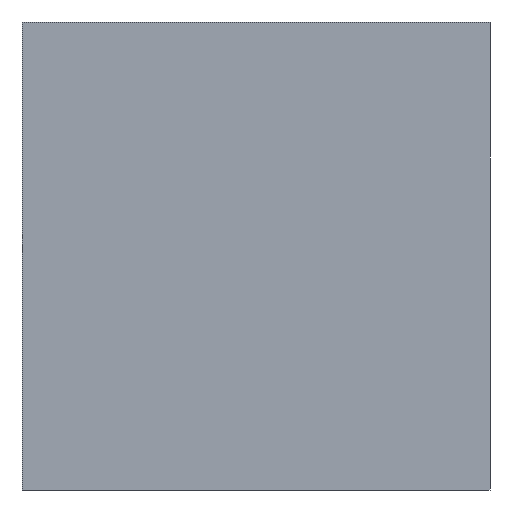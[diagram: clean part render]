
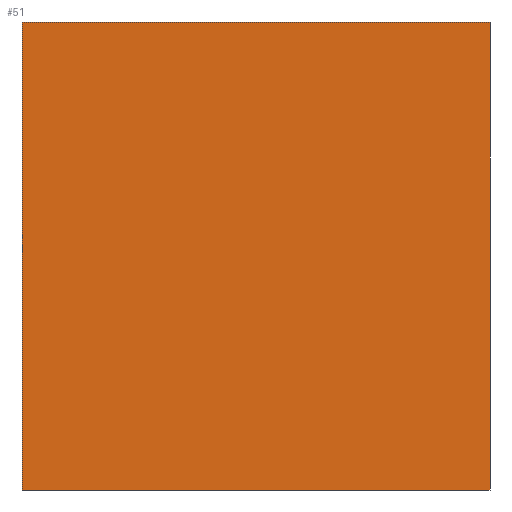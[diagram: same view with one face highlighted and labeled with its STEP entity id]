
A CAD part, left-side view. The second image highlights one B-rep face of the part: STEP entity #51.
In plain terms, the highlighted planar face has unit normal (-1, 0, 0).
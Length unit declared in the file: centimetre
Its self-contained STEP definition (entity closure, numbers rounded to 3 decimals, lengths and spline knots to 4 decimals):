
#3 = VERTEX_POINT ( 'NONE', #149 ) ;
#5 = PLANE ( 'NONE',  #540 ) ;
#32 = ORIENTED_EDGE ( 'NONE', *, *, #103, .F. ) ;
#51 = ADVANCED_FACE ( 'NONE', ( #548 ), #5, .F. ) ;
#53 = CARTESIAN_POINT ( 'NONE',  ( 0., 1000., 1000. ) ) ;
#82 = VERTEX_POINT ( 'NONE', #553 ) ;
#102 = DIRECTION ( 'NONE',  ( 0., 0., -1. ) ) ;
#103 = EDGE_CURVE ( 'NONE', #82, #257, #127, .T. ) ;
#127 = LINE ( 'NONE', #311, #557 ) ;
#138 = ORIENTED_EDGE ( 'NONE', *, *, #468, .T. ) ;
#149 = CARTESIAN_POINT ( 'NONE',  ( 0., 1000., 0. ) ) ;
#168 = LINE ( 'NONE', #284, #449 ) ;
#180 = ORIENTED_EDGE ( 'NONE', *, *, #405, .T. ) ;
#191 = DIRECTION ( 'NONE',  ( 0., 0., -1. ) ) ;
#192 = DIRECTION ( 'NONE',  ( 1., 0., 0. ) ) ;
#257 = VERTEX_POINT ( 'NONE', #475 ) ;
#259 = LINE ( 'NONE', #375, #439 ) ;
#271 = ORIENTED_EDGE ( 'NONE', *, *, #274, .F. ) ;
#274 = EDGE_CURVE ( 'NONE', #257, #547, #168, .T. ) ;
#284 = CARTESIAN_POINT ( 'NONE',  ( 0., 0., 1000. ) ) ;
#311 = CARTESIAN_POINT ( 'NONE',  ( 0., 1000., 1000. ) ) ;
#313 = DIRECTION ( 'NONE',  ( 0., -1., 0. ) ) ;
#324 = DIRECTION ( 'NONE',  ( 0., 0., -1. ) ) ;
#375 = CARTESIAN_POINT ( 'NONE',  ( 0., 1000., 0. ) ) ;
#405 = EDGE_CURVE ( 'NONE', #3, #547, #259, .T. ) ;
#439 = VECTOR ( 'NONE', #517, 100. ) ;
#443 = VECTOR ( 'NONE', #191, 100. ) ;
#449 = VECTOR ( 'NONE', #102, 100. ) ;
#468 = EDGE_CURVE ( 'NONE', #82, #3, #506, .T. ) ;
#475 = CARTESIAN_POINT ( 'NONE',  ( 0., 0., 1000. ) ) ;
#506 = LINE ( 'NONE', #551, #443 ) ;
#517 = DIRECTION ( 'NONE',  ( 0., -1., 0. ) ) ;
#523 = EDGE_LOOP ( 'NONE', ( #180, #271, #32, #138 ) ) ;
#540 = AXIS2_PLACEMENT_3D ( 'NONE', #53, #192, #324 ) ;
#547 = VERTEX_POINT ( 'NONE', #555 ) ;
#548 = FACE_OUTER_BOUND ( 'NONE', #523, .T. ) ;
#551 = CARTESIAN_POINT ( 'NONE',  ( 0., 1000., 1000. ) ) ;
#553 = CARTESIAN_POINT ( 'NONE',  ( 0., 1000., 1000. ) ) ;
#555 = CARTESIAN_POINT ( 'NONE',  ( 0., 0., 0. ) ) ;
#557 = VECTOR ( 'NONE', #313, 100. ) ;
